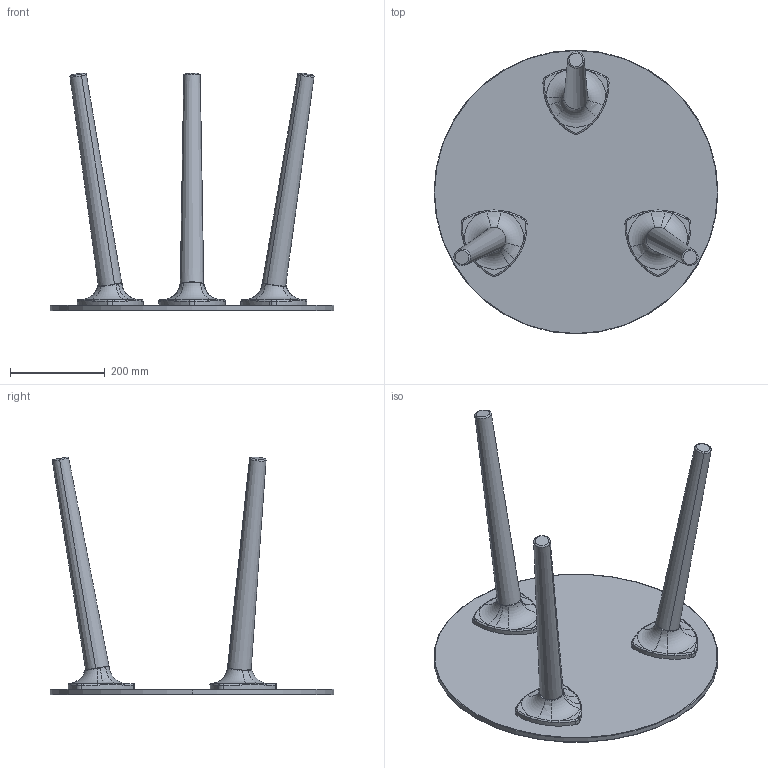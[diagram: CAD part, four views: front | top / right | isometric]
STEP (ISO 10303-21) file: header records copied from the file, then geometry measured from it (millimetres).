
FILE_DESCRIPTION (( 'STEP AP203' ), '1' );
FILE_NAME ('STEFANO3-POD_H50_D50.STEP', '2014-11-28T15:41:12', ( '' ), ( '' ), 'SwSTEP 2.0', 'SolidWorks 2014', '' );
FILE_SCHEMA (( 'CONFIG_CONTROL_DESIGN' ));
Length unit declared in the file: millimetre
Products named in the file (5): STEFANO3-POD_H50_D50; PIANO 50; RACCORDO IN PLASTICA; GAMBA LEGNO; ASSIEME GAMBA
Assembly tree (6 placements, depth 3):
  STEFANO3-POD_H50_D50
    PIANO 50
    ASSIEME GAMBA  x3
      RACCORDO IN PLASTICA
      GAMBA LEGNO
Bounding box: 600 x 600 x 502.71 mm (x, y, z)
Volume: 6018331.4 mm3; surface area: 896095.4 mm2
Topology: 7 solids, 7 shells, 164 faces, 368 edges, 218 vertices
Faces by surface type: bspline 54, torus 52, cylinder 29, plane 23, cone 6
Entity records: 2969 total; most frequent: CARTESIAN_POINT 1132, DIRECTION 289, ORIENTED_EDGE 264, AXIS2_PLACEMENT_3D 138, EDGE_CURVE 132, CIRCLE 86, VERTEX_POINT 78, EDGE_LOOP 62
